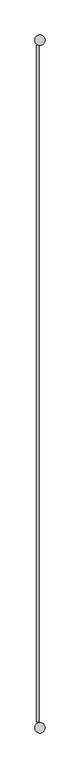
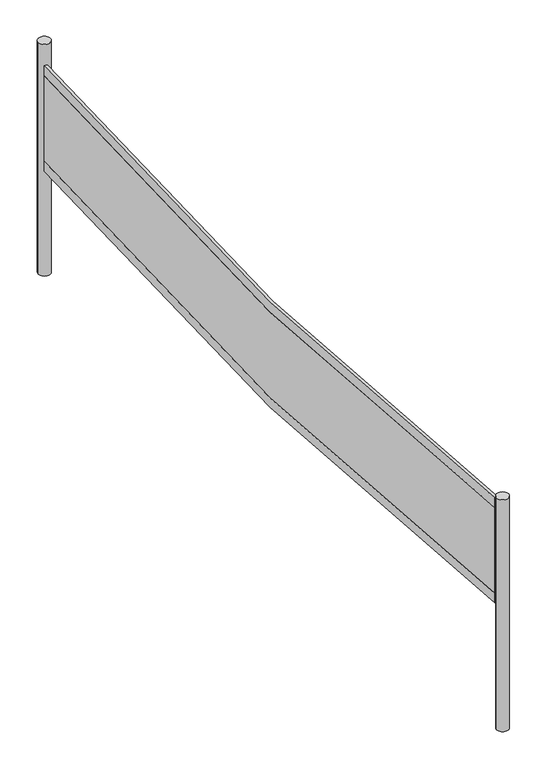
"""IFC4 building model written with IfcOpenShell, lengths in millimetres: furniture geometry, Volei de Praia : Volei de Praia."""

from ifc_helpers import new_model, si_unit, point, frame, frame_2d, origin, place, context, project, spatial, polyline, circle_curve, trimmed, segment, composite_curve, outline, extrude, source, transform, mapped, element, save


def furniture_45f6a091(model_context):
    return source(origin(), model_context, "Body", "SweptSolid", [
        extrude(outline(composite_curve([segment(trimmed(circle_curve(frame_2d((-2654.3987714, 36927.7994167)), 35695.0647114), [point((-7313.140285, 1538.0583572))], [point((446.859715, 1367.71167))], True, "CARTESIAN"), True, "CONTINUOUS"), segment(polyline([(446.859715, 1367.71167), (446.859715, 1267.3331621)]), True, "CONTINUOUS"), segment(trimmed(circle_curve(frame_2d((-2654.3987714, 36927.7994167)), 35795.0647114), [point((446.859715, 1267.3331621))], [point((-7313.140285, 1437.1980524))], False, "CARTESIAN"), True, "CONTINUOUS"), segment(polyline([(-7313.140285, 1437.1980524), (-7313.140285, 1538.0583572)]), True, "CONTINUOUS")], self_intersect=False)), frame((7952.3890706, 0.0, 0.0), z_axis=(1.0, 0.0, 0.0), x_axis=(0.0, 1.0, 0.0)), (0.0, 0.0, 1.0), 30.0),
        extrude(outline(composite_curve([segment(trimmed(circle_curve(frame_2d((-2654.3987714, 37927.7994167)), 35695.0647114), [point((-7313.140285, 2538.0583572))], [point((451.5371006, 2368.1199031))], True, "CARTESIAN"), True, "CONTINUOUS"), segment(polyline([(451.5371006, 2368.1199031), (451.5371006, 2267.7402461)]), True, "CONTINUOUS"), segment(trimmed(circle_curve(frame_2d((-2654.3987714, 37927.7994167)), 35795.0647114), [point((451.5371006, 2267.7402461))], [point((-7313.140285, 2437.1980524))], False, "CARTESIAN"), True, "CONTINUOUS"), segment(polyline([(-7313.140285, 2437.1980524), (-7313.140285, 2538.0583572)]), True, "CONTINUOUS")], self_intersect=False)), frame((7952.3890706, 0.0, 0.0), z_axis=(1.0, 0.0, 0.0), x_axis=(0.0, 1.0, 0.0)), (0.0, 0.0, 1.0), 30.0),
        extrude(outline(composite_curve([segment(trimmed(circle_curve(frame_2d((-2654.3987714, 37827.7994167)), 35695.0647114), [point((-7313.140285, 2438.0583572))], [point((446.859715, 2267.71167))], True, "CARTESIAN"), True, "CONTINUOUS"), segment(polyline([(446.859715, 2267.71167), (446.859715, 1367.71167)]), True, "CONTINUOUS"), segment(trimmed(circle_curve(frame_2d((-2654.3987714, 36927.7994167)), 35695.0647114), [point((446.859715, 1367.71167))], [point((-7313.140285, 1538.0583572))], False, "CARTESIAN"), True, "CONTINUOUS"), segment(polyline([(-7313.140285, 1538.0583572), (-7313.140285, 2438.0583572)]), True, "CONTINUOUS")], self_intersect=False)), frame((7952.3890706, 0.0, 0.0), z_axis=(1.0, 0.0, 0.0), x_axis=(0.0, 1.0, 0.0)), (0.0, 0.0, 1.0), 30.0),
        extrude(outline(composite_curve([segment(trimmed(circle_curve(frame_2d((7989.9677501, -7380.7598047)), 60.0), [point((7929.9677501, -7380.7598047))], [point((8049.9677501, -7380.7598047))], False, "CARTESIAN"), True, "CONTINUOUS"), segment(trimmed(circle_curve(frame_2d((7989.9677501, -7380.7598047)), 60.0), [point((8049.9677501, -7380.7598047))], [point((7929.9677501, -7380.7598047))], False, "CARTESIAN"), True, "CONTINUOUS")], self_intersect=False)), frame((0.0, 0.0, 152.7575753), z_axis=(0.0, 0.0, 1.0), x_axis=(1.0, 0.0, 0.0)), (0.0, 0.0, 1.0), 2434.2651674),
        extrude(outline(composite_curve([segment(trimmed(circle_curve(frame_2d((7989.9677501, 512.6256569)), 60.0), [point((7929.9677501, 512.6256569))], [point((8049.9677501, 512.6256569))], False, "CARTESIAN"), True, "CONTINUOUS"), segment(trimmed(circle_curve(frame_2d((7989.9677501, 512.6256569)), 60.0), [point((8049.9677501, 512.6256569))], [point((7929.9677501, 512.6256569))], False, "CARTESIAN"), True, "CONTINUOUS")], self_intersect=False)), frame((0.0, 0.0, 152.7575753), z_axis=(0.0, 0.0, 1.0), x_axis=(1.0, 0.0, 0.0)), (0.0, 0.0, 1.0), 2434.2651674),
    ])


if __name__ == "__main__":
    model = new_model("IFC4")
    model_context = context("Model", 3, world=origin())
    ifc_project = project(units=[si_unit("LENGTHUNIT", "METRE", prefix="MILLI")], contexts=[model_context])
    site = spatial("IfcSite", under=ifc_project)
    building = spatial("IfcBuilding", under=site)
    placement = place(None, origin())
    furniture_shape = furniture_45f6a091(model_context)
    element("IfcFurniture", 1, ObjectType="Volei de Praia : Volei de Praia", at=placement, inside=building, context=model_context, shape_type="MappedRepresentation", body=[
        mapped(furniture_shape, transform((0.0, 0.0, 0.0), x_axis=(1.0, 0.0, 0.0), y_axis=(0.0, 1.0, 0.0), z_axis=(0.0, 0.0, 1.0))),
    ])
    save(model, "model.ifc")
